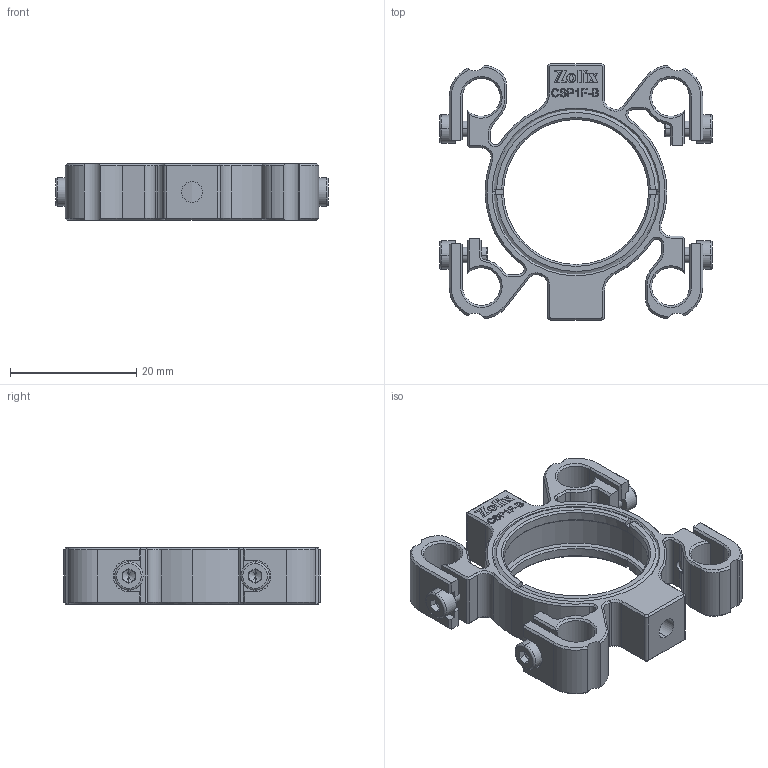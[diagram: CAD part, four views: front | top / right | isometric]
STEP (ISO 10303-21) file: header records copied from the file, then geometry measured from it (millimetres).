
FILE_DESCRIPTION (( 'STEP AP203' ), '1' );
FILE_NAME ('CSP1F-B.STEP', '2024-06-19T06:30:44', ( '' ), ( '' ), 'SwSTEP 2.0', 'SolidWorks 2021', '' );
FILE_SCHEMA (( 'CONFIG_CONTROL_DESIGN' ));
Length unit declared in the file: millimetre
Products named in the file (1): CSP1F-B
Bounding box: 43.2 x 40.6 x 9 mm (x, y, z)
Surface area: 6338.5 mm2 (no closed solid volume)
Topology: 0 solids, 18 shells, 511 faces, 1657 edges, 1149 vertices
Faces by surface type: plane 266, cone 134, cylinder 93, bspline 10, torus 8
Entity records: 19534 total; most frequent: CARTESIAN_POINT 5136, DIRECTION 2910, ORIENTED_EDGE 2810, EDGE_CURVE 1649, VERTEX_POINT 1149, VECTOR 1120, LINE 1120, AXIS2_PLACEMENT_3D 895
